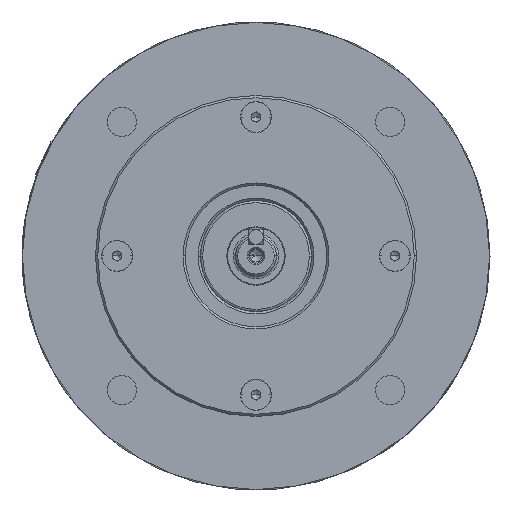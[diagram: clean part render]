
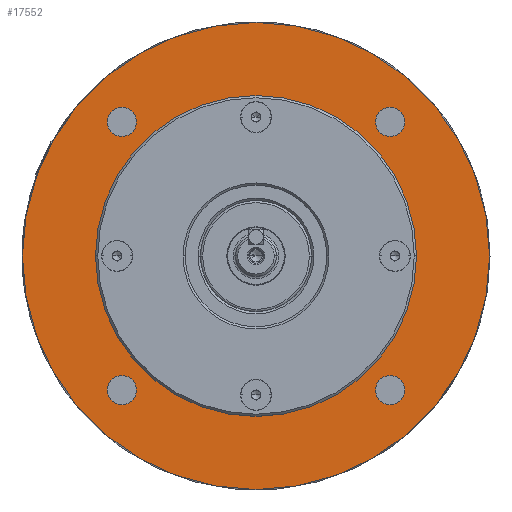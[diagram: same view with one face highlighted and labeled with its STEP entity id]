
A CAD part, top view. The second image highlights one B-rep face of the part: STEP entity #17552.
In plain terms, the highlighted planar face has unit normal (0, 0, 1).
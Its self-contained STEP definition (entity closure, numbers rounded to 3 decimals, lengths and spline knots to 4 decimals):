
#410 = AXIS2_PLACEMENT_3D ( 'NONE', #25346, #3507, #29063 ) ;
#510 = DIRECTION ( 'NONE',  ( 1., 0., 0. ) ) ;
#1399 = EDGE_CURVE ( 'NONE', #20292, #19770, #39505, .T. ) ;
#1718 = EDGE_CURVE ( 'NONE', #13433, #30721, #40042, .T. ) ;
#2065 = DIRECTION ( 'NONE',  ( 1., 0., 0. ) ) ;
#2615 = ORIENTED_EDGE ( 'NONE', *, *, #38544, .F. ) ;
#2667 = AXIS2_PLACEMENT_3D ( 'NONE', #12907, #16563, #42144 ) ;
#3144 = ORIENTED_EDGE ( 'NONE', *, *, #42087, .F. ) ;
#3507 = DIRECTION ( 'NONE',  ( 0., 0., -1. ) ) ;
#3540 = FACE_BOUND ( 'NONE', #5903, .T. ) ;
#3931 = AXIS2_PLACEMENT_3D ( 'NONE', #31124, #9193, #34832 ) ;
#4687 = CIRCLE ( 'NONE', #12612, 2.1652 ) ;
#4741 = EDGE_CURVE ( 'NONE', #32297, #34825, #19257, .T. ) ;
#5040 = DIRECTION ( 'NONE',  ( -1., 0., 0. ) ) ;
#5099 = DIRECTION ( 'NONE',  ( 0., 0., -1. ) ) ;
#5144 = CARTESIAN_POINT ( 'NONE',  ( 0., 0., -1.18 ) ) ;
#5216 = CARTESIAN_POINT ( 'NONE',  ( -1.8095, 1.8095, -1.18 ) ) ;
#5903 = EDGE_LOOP ( 'NONE', ( #6615, #32371 ) ) ;
#6010 = CARTESIAN_POINT ( 'NONE',  ( 2.1652, 0., -1.18 ) ) ;
#6072 = ORIENTED_EDGE ( 'NONE', *, *, #19982, .F. ) ;
#6268 = DIRECTION ( 'NONE',  ( 0., 0., 1. ) ) ;
#6443 = CARTESIAN_POINT ( 'NONE',  ( -1.6126, -1.8095, -1.18 ) ) ;
#6474 = VERTEX_POINT ( 'NONE', #6010 ) ;
#6615 = ORIENTED_EDGE ( 'NONE', *, *, #14557, .F. ) ;
#7712 = AXIS2_PLACEMENT_3D ( 'NONE', #45735, #23907, #2065 ) ;
#8172 = EDGE_LOOP ( 'NONE', ( #3144, #19763 ) ) ;
#8347 = ORIENTED_EDGE ( 'NONE', *, *, #15178, .F. ) ;
#8566 = DIRECTION ( 'NONE',  ( 0., 0., -1. ) ) ;
#8634 = ORIENTED_EDGE ( 'NONE', *, *, #22430, .T. ) ;
#8871 = DIRECTION ( 'NONE',  ( 1., 0., 0. ) ) ;
#8901 = EDGE_CURVE ( 'NONE', #19770, #20292, #16162, .T. ) ;
#9193 = DIRECTION ( 'NONE',  ( 0., 0., 1. ) ) ;
#9239 = DIRECTION ( 'NONE',  ( 0., 0., 1. ) ) ;
#9651 = AXIS2_PLACEMENT_3D ( 'NONE', #19484, #45006, #23159 ) ;
#9996 = CIRCLE ( 'NONE', #7712, 0.1969 ) ;
#10342 = AXIS2_PLACEMENT_3D ( 'NONE', #31169, #9239, #34875 ) ;
#10462 = EDGE_LOOP ( 'NONE', ( #14569, #2615 ) ) ;
#11183 = CIRCLE ( 'NONE', #3931, 0.1969 ) ;
#12210 = ORIENTED_EDGE ( 'NONE', *, *, #1399, .F. ) ;
#12299 = EDGE_LOOP ( 'NONE', ( #31929, #12210 ) ) ;
#12612 = AXIS2_PLACEMENT_3D ( 'NONE', #30488, #8566, #34195 ) ;
#12907 = CARTESIAN_POINT ( 'NONE',  ( 0., 2.1652, -1.18 ) ) ;
#13235 = VERTEX_POINT ( 'NONE', #15734 ) ;
#13433 = VERTEX_POINT ( 'NONE', #43650 ) ;
#13938 = AXIS2_PLACEMENT_3D ( 'NONE', #5144, #5099, #5040 ) ;
#14198 = CIRCLE ( 'NONE', #10342, 0.1969 ) ;
#14496 = CIRCLE ( 'NONE', #25485, 0.1969 ) ;
#14557 = EDGE_CURVE ( 'NONE', #30721, #13433, #9996, .T. ) ;
#14569 = ORIENTED_EDGE ( 'NONE', *, *, #28038, .F. ) ;
#15178 = EDGE_CURVE ( 'NONE', #35427, #13235, #14496, .T. ) ;
#15374 = CARTESIAN_POINT ( 'NONE',  ( -2.1652, 0., -1.18 ) ) ;
#15734 = CARTESIAN_POINT ( 'NONE',  ( -2.0063, -1.8095, -1.18 ) ) ;
#16162 = CIRCLE ( 'NONE', #9651, 3.1514 ) ;
#16563 = DIRECTION ( 'NONE',  ( 0., 0., -1. ) ) ;
#17552 = ADVANCED_FACE ( 'NONE', ( #21755, #3540, #41257, #31585, #32722, #40097 ), #38506, .F. ) ;
#17630 = DIRECTION ( 'NONE',  ( 1., 0., 0. ) ) ;
#18101 = DIRECTION ( 'NONE',  ( 0., 0., 1. ) ) ;
#18268 = CARTESIAN_POINT ( 'NONE',  ( -1.8095, 1.8095, -1.18 ) ) ;
#19257 = CIRCLE ( 'NONE', #42223, 0.1969 ) ;
#19484 = CARTESIAN_POINT ( 'NONE',  ( 0., 0., -1.18 ) ) ;
#19763 = ORIENTED_EDGE ( 'NONE', *, *, #4741, .F. ) ;
#19770 = VERTEX_POINT ( 'NONE', #42496 ) ;
#19982 = EDGE_CURVE ( 'NONE', #13235, #35427, #26825, .T. ) ;
#20292 = VERTEX_POINT ( 'NONE', #39420 ) ;
#21275 = CARTESIAN_POINT ( 'NONE',  ( 1.6126, 1.8095, -1.18 ) ) ;
#21755 = FACE_BOUND ( 'NONE', #23697, .T. ) ;
#22301 = DIRECTION ( 'NONE',  ( 0., 0., 1. ) ) ;
#22430 = EDGE_CURVE ( 'NONE', #29050, #6474, #4687, .T. ) ;
#23159 = DIRECTION ( 'NONE',  ( -1., 0., 0. ) ) ;
#23697 = EDGE_LOOP ( 'NONE', ( #8347, #6072 ) ) ;
#23907 = DIRECTION ( 'NONE',  ( 0., 0., 1. ) ) ;
#24396 = CARTESIAN_POINT ( 'NONE',  ( -1.6126, 1.8095, -1.18 ) ) ;
#25346 = CARTESIAN_POINT ( 'NONE',  ( 0., 0., -1.18 ) ) ;
#25485 = AXIS2_PLACEMENT_3D ( 'NONE', #28166, #6268, #31876 ) ;
#25770 = CARTESIAN_POINT ( 'NONE',  ( 2.0063, 1.8095, -1.18 ) ) ;
#26825 = CIRCLE ( 'NONE', #44918, 0.1969 ) ;
#27894 = CARTESIAN_POINT ( 'NONE',  ( -2.0063, 1.8095, -1.18 ) ) ;
#28038 = EDGE_CURVE ( 'NONE', #35800, #33869, #11183, .T. ) ;
#28166 = CARTESIAN_POINT ( 'NONE',  ( -1.8095, -1.8095, -1.18 ) ) ;
#29050 = VERTEX_POINT ( 'NONE', #15374 ) ;
#29063 = DIRECTION ( 'NONE',  ( -1., 0., 0. ) ) ;
#30215 = AXIS2_PLACEMENT_3D ( 'NONE', #31983, #31885, #31832 ) ;
#30488 = CARTESIAN_POINT ( 'NONE',  ( 0., 0., -1.18 ) ) ;
#30721 = VERTEX_POINT ( 'NONE', #46771 ) ;
#30808 = DIRECTION ( 'NONE',  ( 0., 0., 1. ) ) ;
#31124 = CARTESIAN_POINT ( 'NONE',  ( 1.8095, 1.8095, -1.18 ) ) ;
#31169 = CARTESIAN_POINT ( 'NONE',  ( 1.8095, 1.8095, -1.18 ) ) ;
#31585 = FACE_BOUND ( 'NONE', #8172, .T. ) ;
#31832 = DIRECTION ( 'NONE',  ( 1., 0., 0. ) ) ;
#31876 = DIRECTION ( 'NONE',  ( 1., 0., 0. ) ) ;
#31885 = DIRECTION ( 'NONE',  ( 0., 0., 1. ) ) ;
#31929 = ORIENTED_EDGE ( 'NONE', *, *, #8901, .F. ) ;
#31983 = CARTESIAN_POINT ( 'NONE',  ( 1.8095, -1.8095, -1.18 ) ) ;
#32297 = VERTEX_POINT ( 'NONE', #27894 ) ;
#32371 = ORIENTED_EDGE ( 'NONE', *, *, #1718, .F. ) ;
#32722 = FACE_BOUND ( 'NONE', #39584, .T. ) ;
#33869 = VERTEX_POINT ( 'NONE', #21275 ) ;
#34195 = DIRECTION ( 'NONE',  ( -1., 0., 0. ) ) ;
#34825 = VERTEX_POINT ( 'NONE', #24396 ) ;
#34832 = DIRECTION ( 'NONE',  ( 1., 0., 0. ) ) ;
#34875 = DIRECTION ( 'NONE',  ( 1., 0., 0. ) ) ;
#35427 = VERTEX_POINT ( 'NONE', #6443 ) ;
#35800 = VERTEX_POINT ( 'NONE', #25770 ) ;
#38506 = PLANE ( 'NONE',  #2667 ) ;
#38509 = CIRCLE ( 'NONE', #410, 2.1652 ) ;
#38544 = EDGE_CURVE ( 'NONE', #33869, #35800, #14198, .T. ) ;
#39263 = CIRCLE ( 'NONE', #44231, 0.1969 ) ;
#39420 = CARTESIAN_POINT ( 'NONE',  ( 3.1514, 0., -1.18 ) ) ;
#39505 = CIRCLE ( 'NONE', #13938, 3.1514 ) ;
#39584 = EDGE_LOOP ( 'NONE', ( #8634, #42237 ) ) ;
#40042 = CIRCLE ( 'NONE', #30215, 0.1969 ) ;
#40097 = FACE_OUTER_BOUND ( 'NONE', #12299, .T. ) ;
#41257 = FACE_BOUND ( 'NONE', #10462, .T. ) ;
#42087 = EDGE_CURVE ( 'NONE', #34825, #32297, #39263, .T. ) ;
#42144 = DIRECTION ( 'NONE',  ( -1., 0., 0. ) ) ;
#42223 = AXIS2_PLACEMENT_3D ( 'NONE', #18268, #18101, #17630 ) ;
#42237 = ORIENTED_EDGE ( 'NONE', *, *, #45396, .T. ) ;
#42496 = CARTESIAN_POINT ( 'NONE',  ( -3.1514, 0., -1.18 ) ) ;
#43650 = CARTESIAN_POINT ( 'NONE',  ( 1.6126, -1.8095, -1.18 ) ) ;
#44168 = CARTESIAN_POINT ( 'NONE',  ( -1.8095, -1.8095, -1.18 ) ) ;
#44231 = AXIS2_PLACEMENT_3D ( 'NONE', #5216, #30808, #8871 ) ;
#44918 = AXIS2_PLACEMENT_3D ( 'NONE', #44168, #22301, #510 ) ;
#45006 = DIRECTION ( 'NONE',  ( 0., 0., -1. ) ) ;
#45396 = EDGE_CURVE ( 'NONE', #6474, #29050, #38509, .T. ) ;
#45735 = CARTESIAN_POINT ( 'NONE',  ( 1.8095, -1.8095, -1.18 ) ) ;
#46771 = CARTESIAN_POINT ( 'NONE',  ( 2.0063, -1.8095, -1.18 ) ) ;
